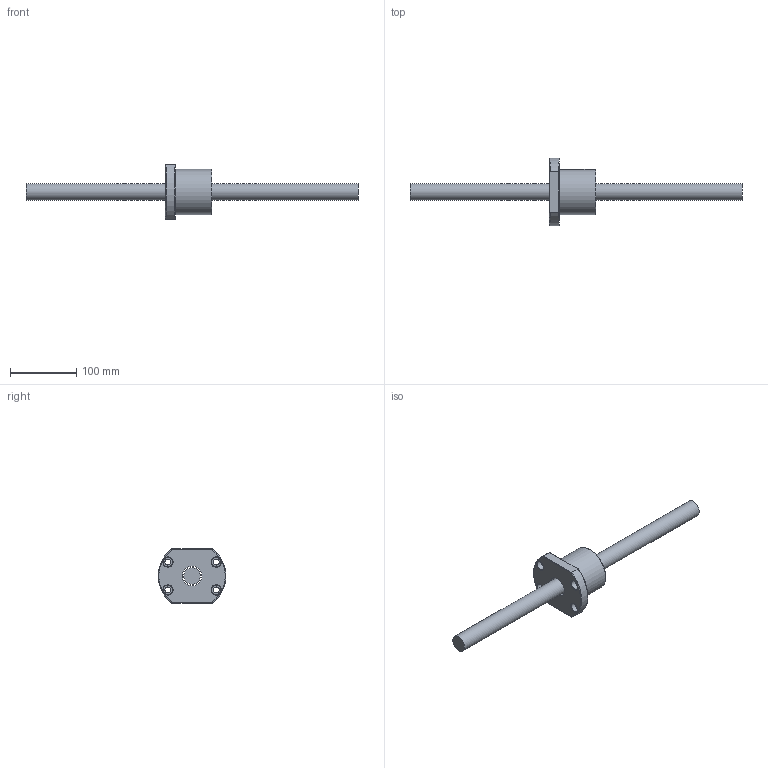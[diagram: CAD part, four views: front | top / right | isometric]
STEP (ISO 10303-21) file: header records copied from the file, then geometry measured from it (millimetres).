
FILE_DESCRIPTION (( 'STEP AP203' ), '1' );
FILE_NAME ('SFV02510D-2.7.step', '2024-05-20T03:38:28', ( '' ), ( '' ), 'SwSTEP 2.0', 'SolidWorks 2022', '' );
FILE_SCHEMA (( 'CONFIG_CONTROL_DESIGN' ));
Length unit declared in the file: millimetre
Products named in the file (1): SFV02510D-2.7
Bounding box: 500 x 101.82 x 82 mm (x, y, z)
Volume: 498928.3 mm3; surface area: 78317.8 mm2
Topology: 2 solids, 2 shells, 56 faces, 136 edges, 89 vertices
Faces by surface type: cylinder 21, plane 16, cone 9, bspline 5, torus 5
Full cylindrical faces by diameter (mm): 4 x1, 7 x6, 9 x4, 14 x4, 25 x1, 29.7 x1, 68 x1
Entity records: 3876 total; most frequent: CARTESIAN_POINT 2824, DIRECTION 188, ORIENTED_EDGE 170, EDGE_LOOP 90, AXIS2_PLACEMENT_3D 87, EDGE_CURVE 85, VERTEX_POINT 69, FACE_OUTER_BOUND 64
